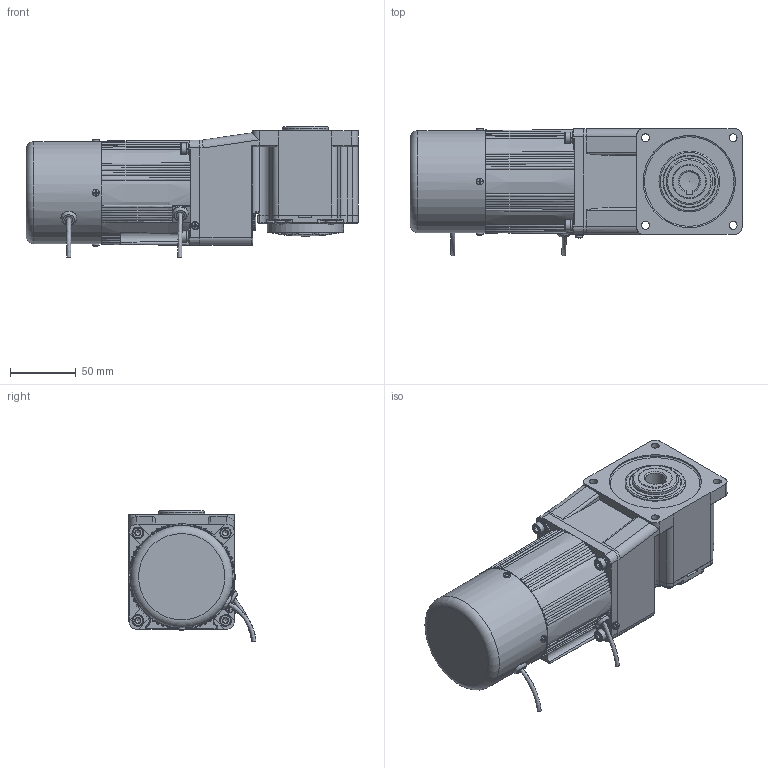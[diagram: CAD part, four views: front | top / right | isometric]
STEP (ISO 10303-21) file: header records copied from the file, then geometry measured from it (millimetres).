
FILE_DESCRIPTION(/* description */ (''),/* implementation_level */ '2;1');
FILE_NAME(/* name */ '80+中空直角-刹车-25-40W 新版.stp',/* time_stamp */ '2025-11-26T08:50:52+08:00',/* author */ (''),/* organization */ (''),/* preprocessor_version */ 'ST-DEVELOPER v18.102',/* originating_system */ 'SIEMENS PLM Software NX 2027',/* authorisation */ '');
FILE_SCHEMA (('AUTOMOTIVE_DESIGN { 1 0 10303 214 3 1 1 1 }'));
Length unit declared in the file: millimetre
Products named in the file (1): 80+中空直角-刹车-25-40W 新版_
objects
Bounding box: 252 x 96.94 x 99.88 mm (x, y, z)
Volume: 1313793.9 mm3; surface area: 137406.3 mm2
Topology: 21 solids, 21 shells, 1093 faces, 2619 edges, 1636 vertices
Faces by surface type: plane 452, cylinder 262, bspline 169, cone 96, torus 92, sphere 22
Full cylindrical faces by diameter (mm): 2.5 x2, 2.6 x1, 3 x1, 3.2 x1, 3.5 x2, 4.2 x4, 4.4 x1, 4.826 x4, 5 x9, 5.1 x5, 5.3 x4, 6 x13, 8 x6, 8.2 x1, 8.5 x4, 9 x4, 10.5 x1, 19 x1, 25 x1, 26 x3, 35 x1, 40 x2, 40.5 x1, 46 x1, 52 x1, 52.5 x1, 56 x1, 58 x1, 67 x1, 70 x1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
Entity records: 38233 total; most frequent: CARTESIAN_POINT 15508, ORIENTED_EDGE 4760, DIRECTION 4080, EDGE_CURVE 2380, AXIS2_PLACEMENT_3D 1668, VERTEX_POINT 1568, EDGE_LOOP 1354, ADVANCED_FACE 1090
